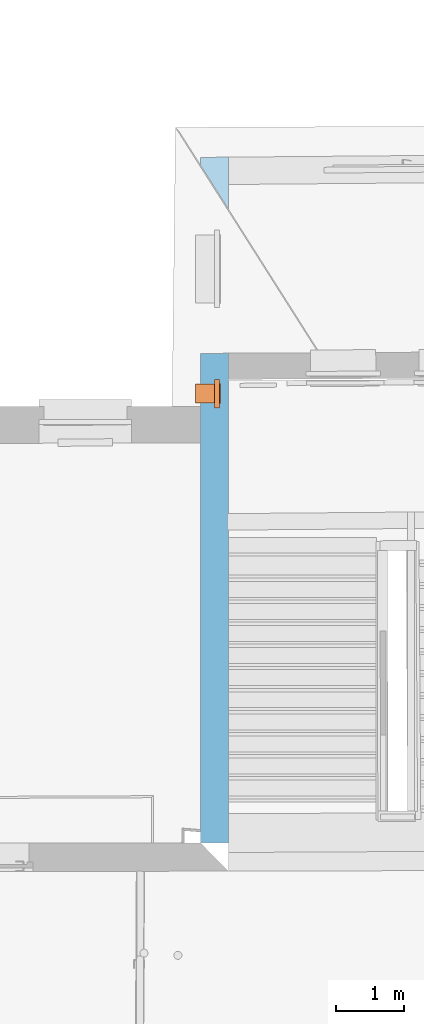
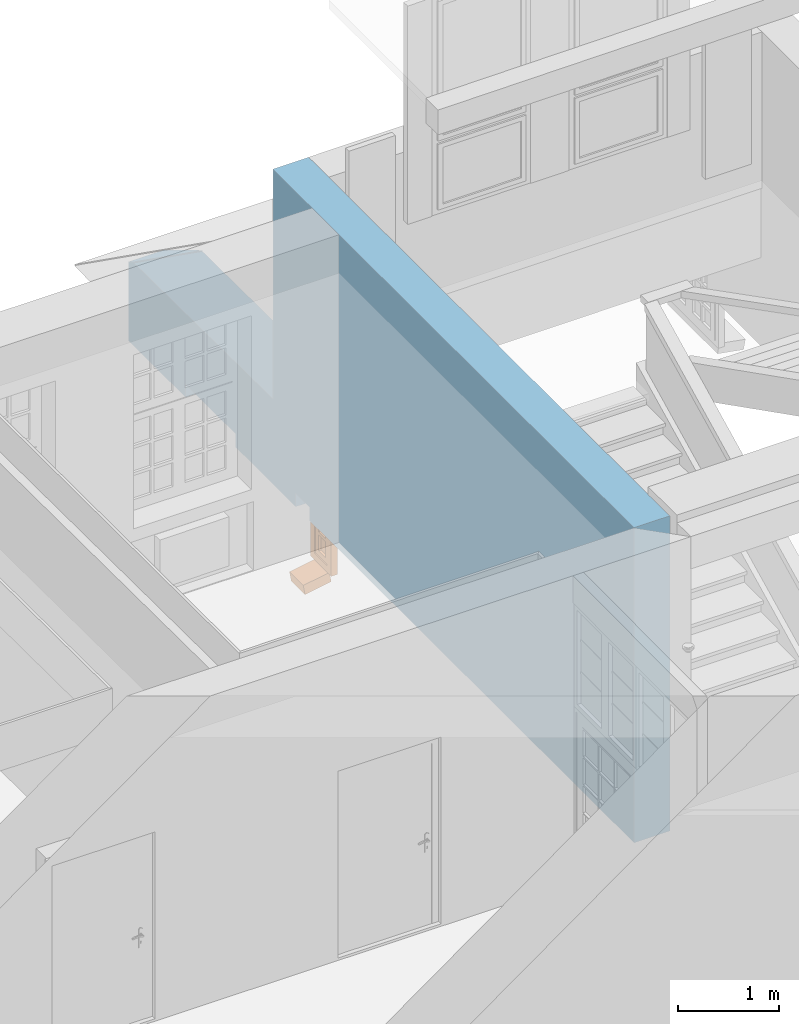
# One storey, part 60 of 158: 1 proxy, 2 openings, plus 1 element that does not belong to this part.
"""IFC2X3 building model written with IfcOpenShell, lengths in metres."""

from ifc_helpers import new_model, entity, si_unit, converted_unit, derived_unit, money_unit, direction, frame, origin_with_axes, origin_2d_with_axis, place, context, subcontext, project, spatial, polyline, rectangle, outline, extrude, boolean, faceted_brep, material, type_object, element, fill, save


model = new_model("IFC2X3")

# Units and contexts
model_context = context("Model", 3, precision=1e-05, world=origin_with_axes(), true_north=direction((0.0, 1.0)))
body_context = subcontext(model_context, "Body", "Model", "MODEL_VIEW")
ifc_project = project(units=[si_unit("LENGTHUNIT", "METRE"), si_unit("AREAUNIT", "SQUARE_METRE"), si_unit("VOLUMEUNIT", "CUBIC_METRE"), converted_unit("PLANEANGLEUNIT", "DEGREE", entity("IfcPlaneAngleMeasure", 0.0174532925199), si_unit("PLANEANGLEUNIT", "RADIAN"), dimensions=[0, 0, 0, 0, 0, 0, 0]), money_unit("EUR"), converted_unit("TIMEUNIT", "Year", entity("IfcTimeMeasure", 31556926.0), si_unit("TIMEUNIT", "SECOND"), dimensions=[0, 0, 1, 0, 0, 0, 0]), si_unit("MASSUNIT", "GRAM", prefix="KILO"), si_unit("THERMODYNAMICTEMPERATUREUNIT", "DEGREE_CELSIUS"), si_unit("LUMINOUSINTENSITYUNIT", "LUMEN"), si_unit("ENERGYUNIT", "JOULE", prefix="MEGA"), derived_unit("THERMALCONDUCTANCEUNIT", [(si_unit("POWERUNIT", "WATT"), 1), (si_unit("LENGTHUNIT", "METRE"), -1), (si_unit("THERMODYNAMICTEMPERATUREUNIT", "KELVIN"), -1)]), derived_unit("SPECIFICHEATCAPACITYUNIT", [(si_unit("ENERGYUNIT", "JOULE"), 1), (si_unit("MASSUNIT", "GRAM", prefix="KILO"), -1), (si_unit("THERMODYNAMICTEMPERATUREUNIT", "KELVIN"), -1)]), derived_unit("MASSDENSITYUNIT", [(si_unit("MASSUNIT", "GRAM", prefix="KILO"), 1), (si_unit("VOLUMEUNIT", "CUBIC_METRE"), -1)])], contexts=[model_context])

# Site, building, storey
site_placement = place(None, origin_with_axes())
site = spatial("IfcSite", under=ifc_project, at=site_placement, Name="Gelände", CompositionType="ELEMENT")
building_placement = place(site_placement, origin_with_axes())
building = spatial("IfcBuilding", under=site, at=building_placement, Name="Gebäude", CompositionType="ELEMENT")
storey_placement = place(building_placement, origin_with_axes())
storey = spatial("IfcBuildingStorey", under=building, at=storey_placement, Name="ERDGESCHOSS", CompositionType="ELEMENT", Elevation=0.0)

# Wall, openings, proxy
ifc_material = material(Name="05_ALLGEMEIN - TRAGENDE BAUTEILE")
wall_type = type_object("IfcWallType", Name="05_ALLGEMEIN - TRAGENDE BAUTEILE 410", PredefinedType="ELEMENTEDWALL")
wall_placement = place(storey_placement, frame((-9.84148057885, 19.2611596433, -0.209998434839), z_axis=(0.0, 0.0, 1.0), x_axis=(-9.41336570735e-05, 0.999999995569, 0.0)))
wall = element("IfcWall", 1, at=wall_placement, inside=storey, type_object=wall_type, material=ifc_material, Name="Wand-038", ObjectType="ELEMENTEDWALL", context=body_context, shape_type="CSG", body=[
    boolean("DIFFERENCE", boolean("DIFFERENCE", boolean("DIFFERENCE", boolean("DIFFERENCE", extrude(outline(polyline([(-0.000214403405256, 0.0), (10.4345770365, 0.0), (10.4345770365, 0.41), (-0.000214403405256, 0.41), (-0.000214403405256, 0.0)])), frame((0.0, 0.0, -1.56516104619e-06), z_axis=(0.0, 0.0, 1.0), x_axis=(1.0, 0.0, 0.0)), (0.0, 0.0, 1.0), 3.81), faceted_brep([(10.0345625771, 0.0, 0.579998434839), (10.0345625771, 0.0, 0.779998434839), (8.49417066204, 0.0, 0.779998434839), (8.49417066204, 0.0, 0.579998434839), (10.0345359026, 0.00313778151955, 0.579998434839), (10.0345359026, 0.00313778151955, 0.779998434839)], [[[0, 1, 2, 3]], [[1, 0, 4, 5]], [[2, 1, 5]], [[3, 2, 5, 4]], [[0, 3, 4]]])), faceted_brep([(7.56718618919, 0.409999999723, 3.80999843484), (7.56932948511, 0.0, 3.80999843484), (10.4345770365, 0.0, 3.80999843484), (10.4345770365, 0.41, 3.80999843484), (7.56932948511, 0.0, 1.41335739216), (7.56718618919, 0.409999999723, 1.02999122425), (9.67549543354, -2.82000200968e-10, 1.40668878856), (10.4345770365, 0.0, 0.949721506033), (9.67549543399, 0.0, 1.39406603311), (10.4345770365, 0.0, -1.56516104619e-06), (10.4345770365, 0.41, -1.56516104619e-06), (10.4310915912, 0.41, -1.56516104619e-06), (10.4310915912, 0.41, 0.951812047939), (10.3221751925, 0.40999999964, 1.01737974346), (10.3221751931, 0.41, 1.0047569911)], [[[0, 1, 2, 3]], [[4, 1, 0, 5]], [[6, 7, 2, 1, 4, 8]], [[7, 9, 10, 3, 2]], [[5, 0, 3, 10, 11, 12, 13, 14]], [[8, 4, 5, 14]], [[7, 6, 13, 12]], [[6, 8, 14, 13]], [[9, 7, 12, 11]], [[9, 11, 10]]])), faceted_brep([(7.18649658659, 0.0, 1.82999843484), (7.18649658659, 0.0, 1.91999843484), (4.68155282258, 0.0, 1.91999859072), (4.68155282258, 0.0, 1.61043476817), (4.92241202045, 0.0, 1.61043476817), (4.92241202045, 0.0, 1.82999843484), (4.92241064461, 0.000316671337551, 1.82999843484), (4.92241064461, 0.000316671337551, 1.91999859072), (4.92236894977, 0.00991337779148, 1.91999859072), (4.68151429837, 0.00886693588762, 1.91999859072), (4.68151429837, 0.00886693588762, 1.61043476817), (4.92236894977, 0.00991337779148, 1.61043476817)], [[[0, 1, 2, 3, 4, 5]], [[1, 0, 6, 7]], [[2, 1, 7, 8, 9]], [[3, 2, 9, 10]], [[4, 3, 10, 11]], [[5, 4, 11, 8, 7, 6]], [[0, 5, 6]], [[8, 11, 10, 9]]])), faceted_brep([(0.839775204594, 0.0, 3.56148876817), (0.839775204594, 0.0, 3.80999843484), (-0.000214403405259, 0.0, 3.80999843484), (-0.000214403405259, 0.0, -1.56516104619e-06), (0.414615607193, 0.0, -7.64886408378e-08), (0.414615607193, 0.0, 3.56148876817), (0.839761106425, 0.00267096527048, 3.80999843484), (0.839761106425, 0.00267096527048, 3.56148876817), (0.414615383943, 0.000426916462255, 3.80999843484), (0.414401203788, 0.41, 3.80999843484), (-0.000214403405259, 0.41, 3.80999843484), (-0.000214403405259, 0.41, -1.56516104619e-06), (0.414401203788, 0.41, -7.6482090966e-08), (0.414615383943, 0.000426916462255, 3.56148876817)], [[[0, 1, 2, 3, 4, 5]], [[6, 1, 0, 7]], [[8, 9, 10, 2, 1, 6]], [[10, 11, 3, 2]], [[12, 4, 3, 11]], [[5, 4, 12, 9, 8, 13]], [[0, 5, 13, 7]], [[8, 6, 7, 13]], [[9, 12, 11, 10]]])),
])
opening_1_placement = place(wall_placement, frame((8.80115134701, 0.0, -0.725296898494), z_axis=(0.0, 0.0, 1.0), x_axis=(1.0, 0.0, 0.0)))
element("IfcOpeningElement", 2, at=opening_1_placement, cuts=wall, Name="Fenster-015", context=body_context, shape_type="SweptSolid", body=[
    extrude(rectangle(XDim=0.991326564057, YDim=0.884032, at=origin_2d_with_axis()), frame((0.0, 0.201578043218, 0.442016), z_axis=(0.0, -1.0, 0.0), x_axis=(-1.0, 0.0, 0.0)), (0.0, 0.0, -1.0), 0.618421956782),
    extrude(rectangle(XDim=1.13132656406, YDim=0.954032, at=origin_2d_with_axis()), frame((0.0, 0.201578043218, 0.477016), z_axis=(0.0, 1.0, 0.0), x_axis=(-1.0, 0.0, 0.0)), (0.0, 0.0, -1.0), 0.611578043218),
    extrude(rectangle(XDim=0.991326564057, YDim=0.162128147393, at=origin_2d_with_axis()), frame((0.0, 0.160740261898, -0.0810640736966), z_axis=(0.0, -1.0, 0.0), x_axis=(-1.0, 0.0, 0.0)), (0.0, 0.0, -1.0), 0.45083778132),
])
opening_2_placement = place(wall_placement, frame((6.97954834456, 0.0, -0.707650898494), z_axis=(0.0, 0.0, 1.0), x_axis=(1.0, 0.0, 0.0)))
opening_2 = element("IfcOpeningElement", 3, at=opening_2_placement, cuts=wall, Name="Fenster-015", context=body_context, shape_type="SweptSolid", body=[
    extrude(rectangle(XDim=0.274211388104, YDim=0.866964, at=origin_2d_with_axis()), frame((0.0, 0.201578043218, 0.433482), z_axis=(0.0, -1.0, 0.0), x_axis=(-1.0, 0.0, 0.0)), (0.0, 0.0, -1.0), 0.618421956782),
    extrude(rectangle(XDim=0.414211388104, YDim=0.936964, at=origin_2d_with_axis()), frame((0.0, 0.201578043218, 0.468482), z_axis=(0.0, 1.0, 0.0), x_axis=(-1.0, 0.0, 0.0)), (0.0, 0.0, -1.0), 0.611578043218),
    extrude(rectangle(XDim=0.274211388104, YDim=0.162128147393, at=origin_2d_with_axis()), frame((0.0, 0.160740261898, -0.0810640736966), z_axis=(0.0, -1.0, 0.0), x_axis=(-1.0, 0.0, 0.0)), (0.0, 0.0, -1.0), 0.45083778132),
])
building_element_proxy_type = type_object("IfcBuildingElementProxyType", Name="1-Flügelfenster 25", PredefinedType="NOTDEFINED")
proxy_placement = place(opening_2_placement, frame((0.207105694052, 0.0, 0.0), z_axis=(0.0, 0.0, 1.0), x_axis=(-1.0, 0.0, 0.0)))
proxy = element("IfcBuildingElementProxy", 4, at=proxy_placement, inside=storey, type_object=building_element_proxy_type, Name="Fenster-015", context=body_context, shape_type="Brep", body=[
    faceted_brep([(0.07, -0.181578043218, 0.0), (0.07, -0.48083778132, -0.0527675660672), (0.344211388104, -0.48083778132, -0.0527675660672), (0.344211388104, -0.181578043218, 0.0), (0.07, -0.160740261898, -0.118176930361), (0.07, -0.46, -0.170944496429), (0.344211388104, -0.46, -0.170944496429), (0.344211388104, -0.160740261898, -0.118176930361)], [[[0, 1, 2, 3]], [[0, 4, 5, 1]], [[1, 5, 6, 2]], [[3, 2, 6, 7]], [[4, 0, 3, 7]], [[5, 4, 7, 6]]]),
    faceted_brep([(0.0, -0.201578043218, 0.0), (0.0, -0.131578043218, 0.0), (0.08, -0.131578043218, 0.08), (0.08, -0.201578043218, 0.08), (0.0, -0.201578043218, 0.936964), (0.0, -0.131578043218, 0.936964), (0.08, -0.131578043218, 0.856964), (0.08, -0.201578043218, 0.856964)], [[[0, 1, 2, 3]], [[4, 5, 1, 0]], [[1, 5, 6, 2]], [[3, 2, 6, 7]], [[0, 3, 7, 4]], [[7, 6, 5, 4]]]),
    faceted_brep([(0.414211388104, -0.201578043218, 0.0), (0.414211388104, -0.131578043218, 0.0), (0.414211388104, -0.131578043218, 0.936964), (0.414211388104, -0.201578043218, 0.936964), (0.334211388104, -0.201578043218, 0.08), (0.334211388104, -0.131578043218, 0.08), (0.334211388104, -0.131578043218, 0.856964), (0.334211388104, -0.201578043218, 0.856964)], [[[0, 1, 2, 3]], [[4, 5, 1, 0]], [[1, 5, 6, 2]], [[3, 2, 6, 7]], [[0, 3, 7, 4]], [[7, 6, 5, 4]]]),
    faceted_brep([(0.0, -0.201578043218, 0.0), (0.0, -0.131578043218, 0.0), (0.414211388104, -0.131578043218, 0.0), (0.414211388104, -0.201578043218, 0.0), (0.08, -0.201578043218, 0.08), (0.08, -0.131578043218, 0.08), (0.207105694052, -0.131578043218, 0.08), (0.334211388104, -0.131578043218, 0.08), (0.334211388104, -0.201578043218, 0.08), (0.207105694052, -0.201578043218, 0.08)], [[[0, 1, 2, 3]], [[4, 5, 1, 0]], [[1, 5, 6, 7, 2]], [[3, 2, 7, 8]], [[0, 3, 8, 9, 4]], [[9, 6, 5, 4]], [[8, 7, 6, 9]]]),
    faceted_brep([(0.0, -0.201578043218, 0.936964), (0.0, -0.131578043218, 0.936964), (0.08, -0.131578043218, 0.856964), (0.08, -0.201578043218, 0.856964), (0.414211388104, -0.201578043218, 0.936964), (0.414211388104, -0.131578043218, 0.936964), (0.334211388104, -0.131578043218, 0.856964), (0.207105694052, -0.131578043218, 0.856964), (0.207105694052, -0.201578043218, 0.856964), (0.334211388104, -0.201578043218, 0.856964)], [[[0, 1, 2, 3]], [[4, 5, 1, 0]], [[1, 5, 6, 7, 2]], [[3, 2, 7, 8]], [[0, 3, 8, 9, 4]], [[9, 6, 5, 4]], [[8, 7, 6, 9]]]),
    faceted_brep([(0.06, -0.131578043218, 0.06), (0.06, -0.118578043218, 0.06), (0.14, -0.118578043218, 0.14), (0.14, -0.131578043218, 0.14), (0.06, -0.131578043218, 0.876964), (0.06, -0.118578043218, 0.876964), (0.14, -0.118578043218, 0.796964), (0.14, -0.131578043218, 0.796964)], [[[0, 1, 2, 3]], [[4, 5, 1, 0]], [[1, 5, 6, 2]], [[3, 2, 6, 7]], [[0, 3, 7, 4]], [[7, 6, 5, 4]]]),
    faceted_brep([(0.354211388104, -0.131578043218, 0.06), (0.274211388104, -0.131578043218, 0.14), (0.274211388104, -0.118578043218, 0.14), (0.354211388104, -0.118578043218, 0.06), (0.354211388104, -0.131578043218, 0.876964), (0.274211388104, -0.131578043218, 0.796964), (0.274211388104, -0.118578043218, 0.796964), (0.354211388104, -0.118578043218, 0.876964)], [[[0, 1, 2, 3]], [[0, 4, 5, 1]], [[1, 5, 6, 2]], [[3, 2, 6, 7]], [[4, 0, 3, 7]], [[5, 4, 7, 6]]]),
    faceted_brep([(0.06, -0.131578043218, 0.06), (0.06, -0.118578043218, 0.06), (0.354211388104, -0.118578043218, 0.06), (0.354211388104, -0.131578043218, 0.06), (0.14, -0.131578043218, 0.14), (0.14, -0.118578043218, 0.14), (0.274211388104, -0.118578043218, 0.14), (0.274211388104, -0.131578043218, 0.14)], [[[0, 1, 2, 3]], [[4, 5, 1, 0]], [[1, 5, 6, 2]], [[3, 2, 6, 7]], [[0, 3, 7, 4]], [[7, 6, 5, 4]]]),
    faceted_brep([(0.06, -0.131578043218, 0.876964), (0.354211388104, -0.131578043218, 0.876964), (0.354211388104, -0.118578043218, 0.876964), (0.06, -0.118578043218, 0.876964), (0.14, -0.131578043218, 0.796964), (0.274211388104, -0.131578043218, 0.796964), (0.274211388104, -0.118578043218, 0.796964), (0.14, -0.118578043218, 0.796964)], [[[0, 1, 2, 3]], [[0, 4, 5, 1]], [[1, 5, 6, 2]], [[3, 2, 6, 7]], [[4, 0, 3, 7]], [[5, 4, 7, 6]]]),
    faceted_brep([(0.08, -0.188578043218, 0.08), (0.08, -0.131578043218, 0.08), (0.14, -0.131578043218, 0.14), (0.14, -0.188578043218, 0.14), (0.08, -0.188578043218, 0.856964), (0.08, -0.131578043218, 0.856964), (0.14, -0.131578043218, 0.796964), (0.14, -0.188578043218, 0.796964)], [[[0, 1, 2, 3]], [[4, 5, 1, 0]], [[1, 5, 6, 2]], [[3, 2, 6, 7]], [[0, 3, 7, 4]], [[7, 6, 5, 4]]]),
    faceted_brep([(0.334211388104, -0.188578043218, 0.08), (0.274211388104, -0.188578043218, 0.14), (0.274211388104, -0.131578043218, 0.14), (0.334211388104, -0.131578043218, 0.08), (0.334211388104, -0.188578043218, 0.856964), (0.274211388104, -0.188578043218, 0.796964), (0.274211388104, -0.131578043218, 0.796964), (0.334211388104, -0.131578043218, 0.856964)], [[[0, 1, 2, 3]], [[0, 4, 5, 1]], [[1, 5, 6, 2]], [[3, 2, 6, 7]], [[4, 0, 3, 7]], [[5, 4, 7, 6]]]),
    faceted_brep([(0.08, -0.188578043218, 0.08), (0.08, -0.131578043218, 0.08), (0.334211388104, -0.131578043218, 0.08), (0.334211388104, -0.188578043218, 0.08), (0.14, -0.188578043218, 0.14), (0.14, -0.131578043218, 0.14), (0.274211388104, -0.131578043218, 0.14), (0.274211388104, -0.188578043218, 0.14)], [[[0, 1, 2, 3]], [[4, 5, 1, 0]], [[1, 5, 6, 2]], [[3, 2, 6, 7]], [[0, 3, 7, 4]], [[7, 6, 5, 4]]]),
    faceted_brep([(0.08, -0.188578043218, 0.856964), (0.334211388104, -0.188578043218, 0.856964), (0.334211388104, -0.131578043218, 0.856964), (0.08, -0.131578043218, 0.856964), (0.14, -0.188578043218, 0.796964), (0.274211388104, -0.188578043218, 0.796964), (0.274211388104, -0.131578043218, 0.796964), (0.14, -0.131578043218, 0.796964)], [[[0, 1, 2, 3]], [[0, 4, 5, 1]], [[1, 5, 6, 2]], [[3, 2, 6, 7]], [[4, 0, 3, 7]], [[5, 4, 7, 6]]]),
    faceted_brep([(0.14, -0.188578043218, 0.335654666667), (0.14, -0.153578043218, 0.335654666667), (0.274211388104, -0.153578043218, 0.335654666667), (0.274211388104, -0.188578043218, 0.335654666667), (0.14, -0.188578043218, 0.370654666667), (0.14, -0.153578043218, 0.370654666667), (0.274211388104, -0.153578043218, 0.370654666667), (0.274211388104, -0.188578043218, 0.370654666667)], [[[0, 1, 2, 3]], [[4, 5, 1, 0]], [[1, 5, 6, 2]], [[3, 2, 6, 7]], [[0, 3, 7, 4]], [[7, 6, 5, 4]]]),
    faceted_brep([(0.14, -0.153578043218, 0.335654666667), (0.14, -0.118578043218, 0.335654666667), (0.274211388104, -0.118578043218, 0.335654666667), (0.274211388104, -0.153578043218, 0.335654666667), (0.14, -0.153578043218, 0.370654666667), (0.14, -0.118578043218, 0.370654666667), (0.274211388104, -0.118578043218, 0.370654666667), (0.274211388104, -0.153578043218, 0.370654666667)], [[[0, 1, 2, 3]], [[4, 5, 1, 0]], [[1, 5, 6, 2]], [[3, 2, 6, 7]], [[0, 3, 7, 4]], [[7, 6, 5, 4]]]),
    faceted_brep([(0.14, -0.188578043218, 0.566309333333), (0.14, -0.153578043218, 0.566309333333), (0.274211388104, -0.153578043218, 0.566309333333), (0.274211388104, -0.188578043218, 0.566309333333), (0.14, -0.188578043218, 0.601309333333), (0.14, -0.153578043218, 0.601309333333), (0.274211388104, -0.153578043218, 0.601309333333), (0.274211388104, -0.188578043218, 0.601309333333)], [[[0, 1, 2, 3]], [[4, 5, 1, 0]], [[1, 5, 6, 2]], [[3, 2, 6, 7]], [[0, 3, 7, 4]], [[7, 6, 5, 4]]]),
    faceted_brep([(0.14, -0.153578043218, 0.566309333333), (0.14, -0.118578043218, 0.566309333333), (0.274211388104, -0.118578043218, 0.566309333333), (0.274211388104, -0.153578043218, 0.566309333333), (0.14, -0.153578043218, 0.601309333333), (0.14, -0.118578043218, 0.601309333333), (0.274211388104, -0.118578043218, 0.601309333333), (0.274211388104, -0.153578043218, 0.601309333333)], [[[0, 1, 2, 3]], [[4, 5, 1, 0]], [[1, 5, 6, 2]], [[3, 2, 6, 7]], [[0, 3, 7, 4]], [[7, 6, 5, 4]]]),
    faceted_brep([(0.274211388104, -0.148578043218, 0.566309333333), (0.274211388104, -0.158578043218, 0.566309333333), (0.274211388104, -0.158578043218, 0.370654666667), (0.274211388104, -0.148578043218, 0.370654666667), (0.14, -0.158578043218, 0.566309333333), (0.14, -0.148578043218, 0.566309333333), (0.14, -0.158578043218, 0.370654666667), (0.14, -0.148578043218, 0.370654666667)], [[[0, 1, 2, 3]], [[4, 1, 0, 5]], [[1, 4, 6, 2]], [[2, 6, 7, 3]], [[5, 0, 3, 7]], [[4, 5, 7, 6]]]),
    faceted_brep([(0.274211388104, -0.158578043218, 0.14), (0.274211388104, -0.148578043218, 0.14), (0.274211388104, -0.148578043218, 0.335654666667), (0.274211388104, -0.158578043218, 0.335654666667), (0.14, -0.158578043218, 0.14), (0.14, -0.148578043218, 0.14), (0.14, -0.148578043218, 0.335654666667), (0.14, -0.158578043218, 0.335654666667)], [[[0, 1, 2, 3]], [[0, 4, 5, 1]], [[1, 5, 6, 2]], [[2, 6, 7, 3]], [[4, 0, 3, 7]], [[5, 4, 7, 6]]]),
    faceted_brep([(0.14, -0.158578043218, 0.601309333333), (0.274211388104, -0.158578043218, 0.601309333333), (0.274211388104, -0.158578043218, 0.796964), (0.14, -0.158578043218, 0.796964), (0.274211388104, -0.148578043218, 0.601309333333), (0.14, -0.148578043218, 0.601309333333), (0.274211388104, -0.148578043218, 0.796964), (0.14, -0.148578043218, 0.796964)], [[[0, 1, 2, 3]], [[4, 1, 0, 5]], [[1, 4, 6, 2]], [[7, 3, 2, 6]], [[5, 0, 3, 7]], [[4, 5, 7, 6]]]),
])
fill(opening_2, proxy)

save(model, "model.ifc")
